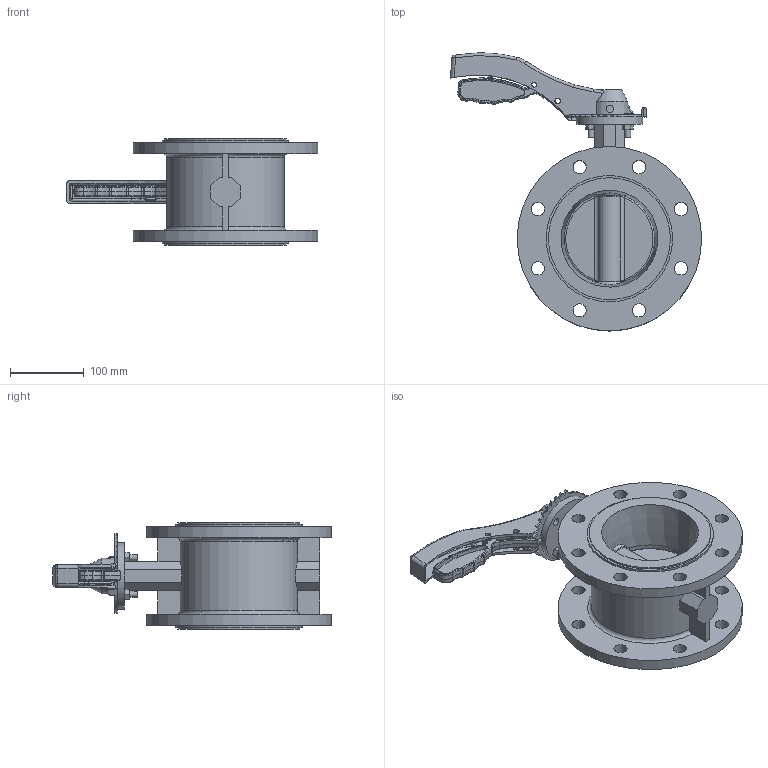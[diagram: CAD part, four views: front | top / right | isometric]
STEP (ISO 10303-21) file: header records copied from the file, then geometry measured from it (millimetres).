
FILE_DESCRIPTION (( 'STEP AP214' ), '1' );
FILE_NAME ('忒梟 邧楊擘評概 Fig.3226-204B-125-16.STEP', '2026-03-19T09:13:34', ( '' ), ( '' ), 'SwSTEP 2.0', 'SolidWorks 2024', '' );
FILE_SCHEMA (( 'AUTOMOTIVE_DESIGN' ));
Length unit declared in the file: millimetre
Products named in the file (1): 手柄 双法兰蝶阀 Fig.3226-204B-125-16
Bounding box: 340.46 x 376.89 x 144 mm (x, y, z)
Volume: 2425031 mm3; surface area: 409364.6 mm2
Topology: 1 solids, 8 shells, 1113 faces, 3128 edges, 2073 vertices
Faces by surface type: plane 743, cylinder 160, bspline 116, cone 74, torus 20
Full cylindrical faces by diameter (mm): 6.303 x1, 6.618 x3, 7.816 x2, 8 x4, 10 x4, 10.085 x1, 11.856 x2, 15.4 x2, 18 x16, 19.1 x1, 24.708 x1, 28 x1, 40 x1, 90 x1, 165.3 x2, 171.3 x2, 250 x2
Entity records: 58219 total; most frequent: CARTESIAN_POINT 19473, ORIENTED_EDGE 6030, DIRECTION 4523, EDGE_CURVE 3015, VERTEX_POINT 2027, LINE 1951, VECTOR 1951, AXIS2_PLACEMENT_3D 1286
